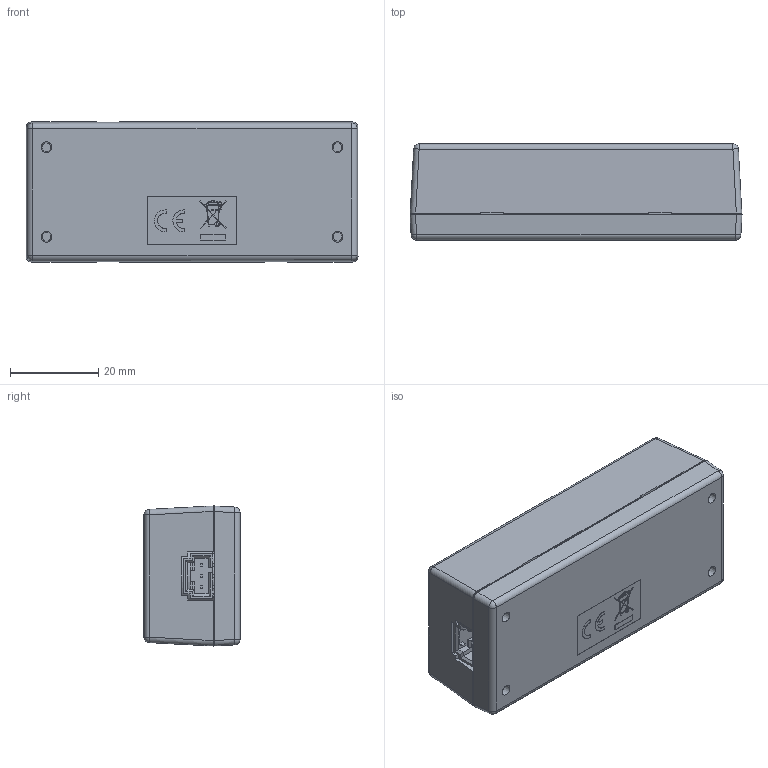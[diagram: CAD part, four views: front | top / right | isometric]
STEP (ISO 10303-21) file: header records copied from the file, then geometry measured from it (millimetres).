
FILE_DESCRIPTION(/* description */ ('Alibre Inc.'),/* implementation_level */ '2;1');
FILE_NAME(/* name */ 'export0',/* time_stamp */ '2018-08-09T08:33:36-06:00',/* author */ (''),/* organization */ (''),/* preprocessor_version */ 'ST-DEVELOPER v17',/* originating_system */ 'Alibre',/* authorisation */ '');
FILE_SCHEMA (('CONFIG_CONTROL_DESIGN'));
Length unit declared in the file: millimetre
Products named in the file (116): ID_1; ID_2; ID_3; ID_4; ID_5; ID_6; ID_7; ID_8; ID_9; ID_10; ID_11; ID_12; ID_13; ID_14; ID_15; ID_16; ID_17; ID_18; ID_19; ID_20; ID_21; ID_22; ID_23; ID_24; ID_25; ID_26; ID_27; ID_28; ID_29; ID_30; ID_31; ID_32; ID_33; ID_34; ID_35; ID_36
Bounding box: 75.32 x 21.79 x 31.77 mm (x, y, z)
Volume: 22860.5 mm3; surface area: 27630.3 mm2
Topology: 153 solids, 153 shells, 2592 faces, 6580 edges, 4280 vertices
Faces by surface type: plane 1798, cylinder 513, bspline 250, cone 23, sphere 8
Full cylindrical faces by diameter (mm): 0.6 x1, 0.965 x3, 1 x2, 1.067 x2, 1.321 x4, 3.099 x4, 3.175 x4, 3.556 x1, 4.064 x2, 16 x2
Entity records: 59839 total; most frequent: CARTESIAN_POINT 12612, ORIENTED_EDGE 7532, DIRECTION 5653, EDGE_CURVE 3766, VECTOR 2737, LINE 2737, VERTEX_POINT 2487, AXIS2_PLACEMENT_3D 1905
